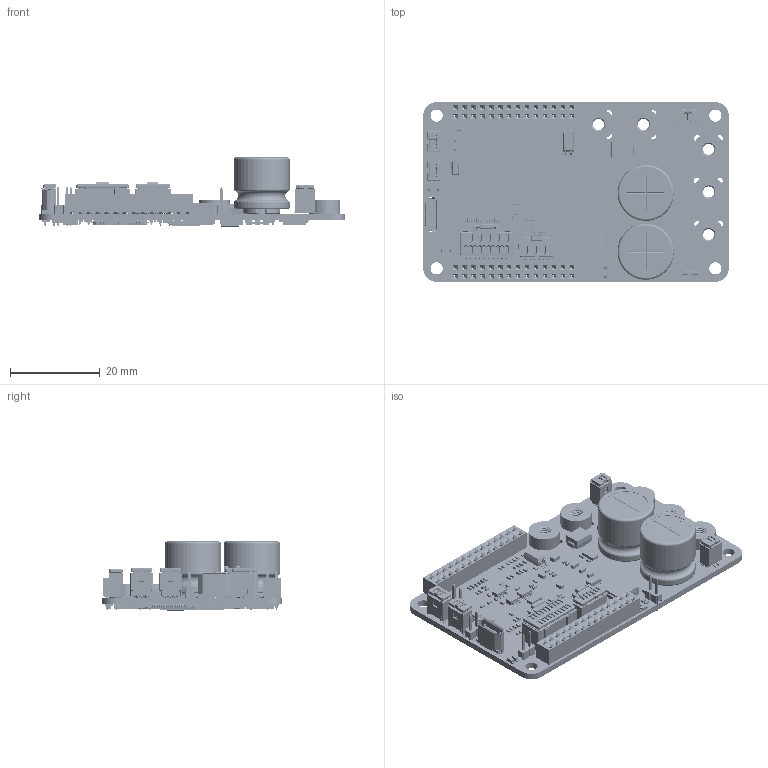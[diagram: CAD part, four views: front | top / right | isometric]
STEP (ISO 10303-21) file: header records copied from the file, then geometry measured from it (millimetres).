
FILE_DESCRIPTION(('FreeCAD Model'),'2;1');
FILE_NAME('Open CASCADE Shape Model','2026-03-20T04:36:00',('Author'),( ''),'Open CASCADE STEP processor 7.7','FreeCAD','Unknown');
FILE_SCHEMA(('AUTOMOTIVE_DESIGN { 1 0 10303 214 1 1 1 1 }'));
Length unit declared in the file: millimetre
Products named in the file (1142): PCB; Board; Open CASCADE STEP translator 6.8 1.1.1; C99; 6053995888; Extruded; 6053995888001; 6053995328; Extruded002; DD4; User_Library-SC70-6; C98; 6053995888002; 6053995888003; 6053995328001; J4; Download_STP_62000211121_(rev1); 62000211121; 6200xx11121_PIN; DD3; User_Library-sot-553; User_Library-sot-553_sot-553_body; User_Library-sot-553_sot-553_pins005; User_Library-sot-553_sot-553_pins; User_Library-sot-553_sot-553_pins001; User_Library-sot-553_sot-553_pins002; User_Library-sot-553_sot-553_pins003; User_Library-sot-553_sot-553_pins004; User_Library-sot-553_sot-553_index; User_Library-sot-553_sot-553_marking007; User_Library-sot-553_sot-553_marking; User_Library-sot-553_sot-553_marking001; User_Library-sot-553_sot-553_marking002; User_Library-sot-553_sot-553_marking003; User_Library-sot-553_sot-553_marking004; User_Library-sot-553_sot-553_marking005; User_Library-sot-553_sot-553_marking006; VD24; User_Library-SOD323; R89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
Assembly tree (2045 placements, depth 5):
  PCB
    Board
      Open CASCADE STEP translator 6.8 1.1.1
    C99
      6053995888
        Extruded
      6053995888001
        Extruded
      6053995328
        Extruded002
    DD4
      User_Library-SC70-6
    C98
      6053995888002
        Extruded
      6053995888003
        Extruded
      6053995328001
        Extruded002
    J4
      Download_STP_62000211121_(rev1)
        62000211121
        6200xx11121_PIN  x2
    DD3
      User_Library-sot-553
        User_Library-sot-553_sot-553_body
        User_Library-sot-553_sot-553_pins005
          User_Library-sot-553_sot-553_pins
          User_Library-sot-553_sot-553_pins001
          User_Library-sot-553_sot-553_pins002
          User_Library-sot-553_sot-553_pins003
          User_Library-sot-553_sot-553_pins004
        User_Library-sot-553_sot-553_index
        User_Library-sot-553_sot-553_marking007
          User_Library-sot-553_sot-553_marking
          User_Library-sot-553_sot-553_marking001
          User_Library-sot-553_sot-553_marking002
          User_Library-sot-553_sot-553_marking003
          User_Library-sot-553_sot-553_marking004
          User_Library-sot-553_sot-553_marking005
          User_Library-sot-553_sot-553_marking006
    VD24
      User_Library-SOD323
    R89
      User_Library-RESC1005X04N
    R90
      User_Library-RESC1005X04N
    R88
      User_Library-RESC1005X04N
    C100
      6053995328002
        Extruded002
      6053995888004
        Extruded
      6053995888005
        Extruded
    X11
      62002821821_(rev1)
        62002821821
        6200xx21821  x28
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Bounding box: 68 x 40 x 15.37 mm (x, y, z)
Volume: 9579.2 mm3; surface area: 21422.8 mm2
Topology: 1040 solids, 1043 shells, 29951 faces, 81332 edges, 53727 vertices
Faces by surface type: plane 19312, cylinder 6667, bspline 3795, torus 112, sphere 43, cone 22
Full cylindrical faces by diameter (mm): 0.25 x6, 0.4 x5, 0.5 x5, 0.6 x10, 0.8 x69, 1 x1, 1.4 x10, 2.7 x4, 4 x5, 4.2 x5, 7 x5, 12.3 x4
Entity records: 246358 total; most frequent: CARTESIAN_POINT 46389, DIRECTION 31634, ORIENTED_EDGE 31318, EDGE_CURVE 15660, LINE 12824, VECTOR 12824, VERTEX_POINT 10131, AXIS2_PLACEMENT_3D 9405
